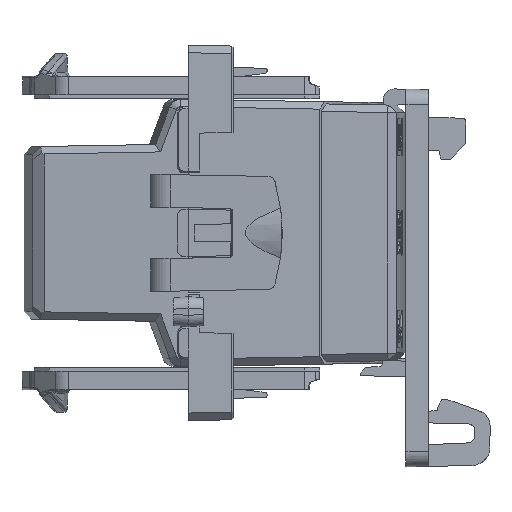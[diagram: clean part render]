
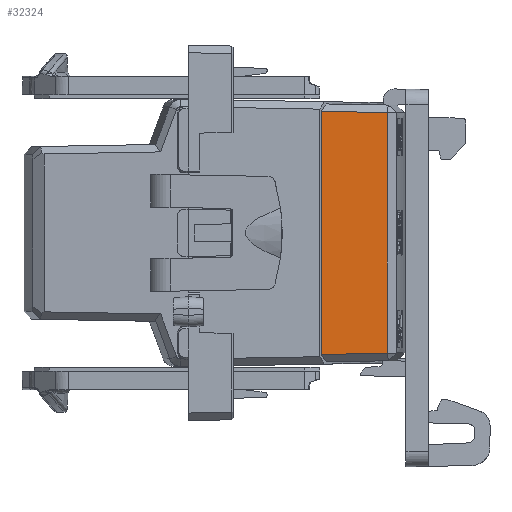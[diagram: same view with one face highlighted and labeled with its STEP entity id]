
A CAD part, left-side view. The second image highlights one B-rep face of the part: STEP entity #32324.
In plain terms, the highlighted planar face has unit normal (-1, -0.018, 0) as drawn and (1, 0.017, 0) by its records, which use the part's own axes.
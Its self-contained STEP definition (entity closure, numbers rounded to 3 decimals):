
#5134 = FACE_OUTER_BOUND ( 'NONE', #77689, .T. ) ;
#7677 = EDGE_CURVE ( 'NONE', #14074, #22072, #39437, .T. ) ;
#7706 = VECTOR ( 'NONE', #8525, 1000. ) ;
#8525 = DIRECTION ( 'NONE',  ( 0., 0., -1. ) ) ;
#10642 = EDGE_CURVE ( 'NONE', #26855, #63606, #24306, .T. ) ;
#14074 = VERTEX_POINT ( 'NONE', #73044 ) ;
#16949 = CARTESIAN_POINT ( 'NONE',  ( 15.141, 17.702, 16.191 ) ) ;
#18144 = CARTESIAN_POINT ( 'NONE',  ( 15.432, 1., 17.5 ) ) ;
#20912 = ORIENTED_EDGE ( 'NONE', *, *, #10642, .F. ) ;
#21127 = VECTOR ( 'NONE', #41739, 1000. ) ;
#22072 = VERTEX_POINT ( 'NONE', #32708 ) ;
#24306 = LINE ( 'NONE', #49090, #47707 ) ;
#26855 = VERTEX_POINT ( 'NONE', #73225 ) ;
#29747 = ORIENTED_EDGE ( 'NONE', *, *, #7677, .F. ) ;
#29927 = PLANE ( 'NONE',  #52400 ) ;
#32324 = ADVANCED_FACE ( 'NONE', ( #5134 ), #29927, .F. ) ;
#32708 = CARTESIAN_POINT ( 'NONE',  ( 14.987, 26.5, -16.037 ) ) ;
#39061 = ORIENTED_EDGE ( 'NONE', *, *, #61280, .F. ) ;
#39437 = LINE ( 'NONE', #64157, #7706 ) ;
#39554 = CARTESIAN_POINT ( 'NONE',  ( 14.987, 26.5, -16.037 ) ) ;
#39675 = VECTOR ( 'NONE', #64254, 1000. ) ;
#41273 = ORIENTED_EDGE ( 'NONE', *, *, #45406, .F. ) ;
#41739 = DIRECTION ( 'NONE',  ( -0.017, 1., -0.017 ) ) ;
#42944 = DIRECTION ( 'NONE',  ( -1., -0.017, 0. ) ) ;
#45406 = EDGE_CURVE ( 'NONE', #63606, #14074, #53953, .T. ) ;
#47591 = CARTESIAN_POINT ( 'NONE',  ( 15.141, 17.702, 16.191 ) ) ;
#47707 = VECTOR ( 'NONE', #73770, 1000. ) ;
#49090 = CARTESIAN_POINT ( 'NONE',  ( 15.141, 17.702, 17.8 ) ) ;
#52400 = AXIS2_PLACEMENT_3D ( 'NONE', #18144, #42944, #67673 ) ;
#53953 = LINE ( 'NONE', #16949, #21127 ) ;
#61280 = EDGE_CURVE ( 'NONE', #22072, #26855, #76341, .T. ) ;
#63606 = VERTEX_POINT ( 'NONE', #47591 ) ;
#64157 = CARTESIAN_POINT ( 'NONE',  ( 14.987, 26.5, 17.5 ) ) ;
#64254 = DIRECTION ( 'NONE',  ( 0.017, -1., -0.017 ) ) ;
#67673 = DIRECTION ( 'NONE',  ( 0.017, -1., 0. ) ) ;
#73044 = CARTESIAN_POINT ( 'NONE',  ( 14.987, 26.5, 16.037 ) ) ;
#73225 = CARTESIAN_POINT ( 'NONE',  ( 15.141, 17.702, -16.191 ) ) ;
#73770 = DIRECTION ( 'NONE',  ( 0., 0., 1. ) ) ;
#76341 = LINE ( 'NONE', #39554, #39675 ) ;
#77689 = EDGE_LOOP ( 'NONE', ( #39061, #29747, #41273, #20912 ) ) ;
